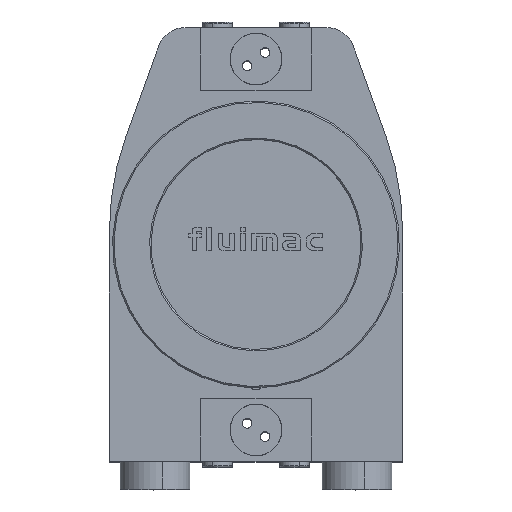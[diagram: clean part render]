
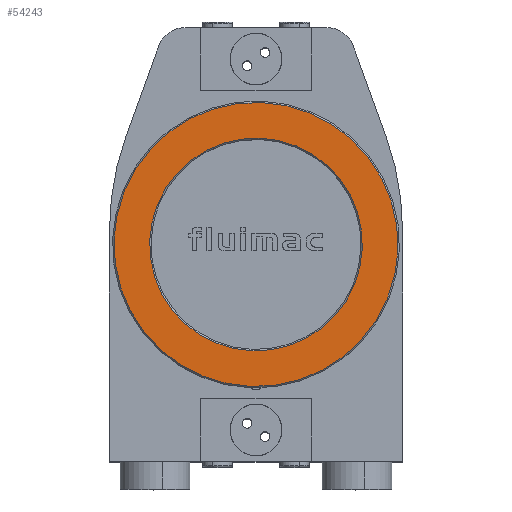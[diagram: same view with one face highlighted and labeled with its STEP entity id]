
A CAD part, top view. The second image highlights one B-rep face of the part: STEP entity #54243.
In plain terms, the highlighted planar face has unit normal (0, 0, 1).
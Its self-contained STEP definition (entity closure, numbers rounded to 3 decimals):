
#758 = ORIENTED_EDGE ( 'NONE', *, *, #73437, .T. ) ;
#1074 = CARTESIAN_POINT ( 'NONE',  ( 0., 0., 137.5 ) ) ;
#5394 = DIRECTION ( 'NONE',  ( -0.846, 0.533, 0. ) ) ;
#7236 = CARTESIAN_POINT ( 'NONE',  ( -85.912, 54.05, 137.5 ) ) ;
#8892 = DIRECTION ( 'NONE',  ( 0., 0., -1. ) ) ;
#9279 = CARTESIAN_POINT ( 'NONE',  ( -64.328, 40.471, 137.5 ) ) ;
#9895 = VERTEX_POINT ( 'NONE', #27901 ) ;
#10785 = DIRECTION ( 'NONE',  ( 0., 0., 1. ) ) ;
#15273 = VERTEX_POINT ( 'NONE', #9279 ) ;
#15928 = CARTESIAN_POINT ( 'NONE',  ( 0., 0., 137.5 ) ) ;
#16761 = ORIENTED_EDGE ( 'NONE', *, *, #36276, .T. ) ;
#16944 = DIRECTION ( 'NONE',  ( 0., 0., -1. ) ) ;
#18380 = AXIS2_PLACEMENT_3D ( 'NONE', #15928, #8892, #65655 ) ;
#22184 = CIRCLE ( 'NONE', #32797, 76. ) ;
#22517 = EDGE_CURVE ( 'NONE', #57319, #15273, #22184, .T. ) ;
#23200 = DIRECTION ( 'NONE',  ( -0.846, 0.533, 0. ) ) ;
#27724 = AXIS2_PLACEMENT_3D ( 'NONE', #28666, #10785, #5394 ) ;
#27901 = CARTESIAN_POINT ( 'NONE',  ( 85.912, -54.05, 137.5 ) ) ;
#28666 = CARTESIAN_POINT ( 'NONE',  ( 0., 0., 137.5 ) ) ;
#29138 = ORIENTED_EDGE ( 'NONE', *, *, #39632, .T. ) ;
#29426 = PLANE ( 'NONE',  #72675 ) ;
#32797 = AXIS2_PLACEMENT_3D ( 'NONE', #1074, #71061, #52477 ) ;
#35652 = FACE_BOUND ( 'NONE', #78248, .T. ) ;
#35786 = VERTEX_POINT ( 'NONE', #7236 ) ;
#36276 = EDGE_CURVE ( 'NONE', #35786, #9895, #71328, .T. ) ;
#37141 = DIRECTION ( 'NONE',  ( -0.846, 0.533, 0. ) ) ;
#39371 = CIRCLE ( 'NONE', #63152, 101.5 ) ;
#39419 = ORIENTED_EDGE ( 'NONE', *, *, #22517, .T. ) ;
#39632 = EDGE_CURVE ( 'NONE', #15273, #57319, #66034, .T. ) ;
#43952 = EDGE_LOOP ( 'NONE', ( #16761, #758 ) ) ;
#44206 = CARTESIAN_POINT ( 'NONE',  ( 0., 0., 137.5 ) ) ;
#52477 = DIRECTION ( 'NONE',  ( -0.846, 0.533, 0. ) ) ;
#54243 = ADVANCED_FACE ( 'NONE', ( #35652, #60918 ), #29426, .F. ) ;
#57319 = VERTEX_POINT ( 'NONE', #64350 ) ;
#60918 = FACE_OUTER_BOUND ( 'NONE', #43952, .T. ) ;
#63152 = AXIS2_PLACEMENT_3D ( 'NONE', #44206, #69380, #37141 ) ;
#64350 = CARTESIAN_POINT ( 'NONE',  ( 64.328, -40.471, 137.5 ) ) ;
#65655 = DIRECTION ( 'NONE',  ( -0.846, 0.533, 0. ) ) ;
#66034 = CIRCLE ( 'NONE', #18380, 76. ) ;
#69380 = DIRECTION ( 'NONE',  ( 0., 0., 1. ) ) ;
#71061 = DIRECTION ( 'NONE',  ( 0., 0., -1. ) ) ;
#71328 = CIRCLE ( 'NONE', #27724, 101.5 ) ;
#72675 = AXIS2_PLACEMENT_3D ( 'NONE', #79887, #16944, #23200 ) ;
#73437 = EDGE_CURVE ( 'NONE', #9895, #35786, #39371, .T. ) ;
#78248 = EDGE_LOOP ( 'NONE', ( #39419, #29138 ) ) ;
#79887 = CARTESIAN_POINT ( 'NONE',  ( 86.759, -54.582, 137.5 ) ) ;
